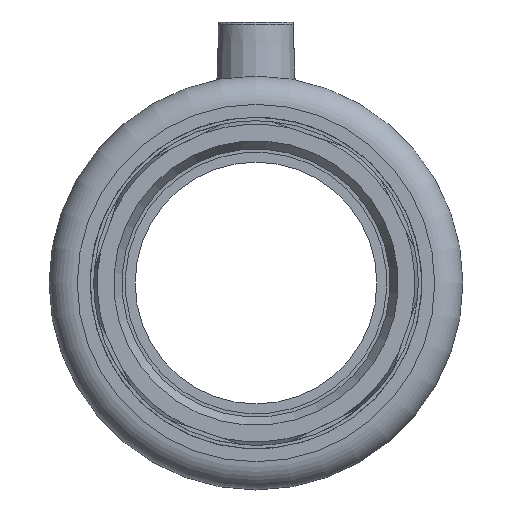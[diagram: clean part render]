
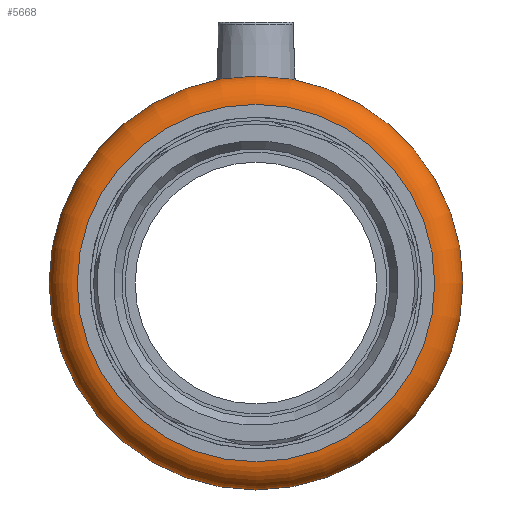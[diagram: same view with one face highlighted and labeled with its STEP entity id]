
A CAD part, left-side view. The second image highlights one B-rep face of the part: STEP entity #5668.
In plain terms, the highlighted toroidal (fillet/blend) face has major radius 38 mm and minor radius 6 mm.
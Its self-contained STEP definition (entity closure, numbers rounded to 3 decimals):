
#553=TOROIDAL_SURFACE('',#7220,38.,6.);
#706=CIRCLE('',#7219,38.);
#707=CIRCLE('',#7221,44.);
#1721=ORIENTED_EDGE('',*,*,#3010,.T.);
#1722=ORIENTED_EDGE('',*,*,#3009,.F.);
#3009=EDGE_CURVE('',#3735,#3735,#706,.T.);
#3010=EDGE_CURVE('',#3736,#3736,#707,.T.);
#3735=VERTEX_POINT('',#11432);
#3736=VERTEX_POINT('',#11435);
#4752=EDGE_LOOP('',(#1721));
#4753=EDGE_LOOP('',(#1722));
#5202=FACE_BOUND('',#4752,.T.);
#5203=FACE_BOUND('',#4753,.T.);
#5668=ADVANCED_FACE('',(#5202,#5203),#553,.T.);
#7219=AXIS2_PLACEMENT_3D('',#11431,#8070,#8071);
#7220=AXIS2_PLACEMENT_3D('',#11433,#8072,#8073);
#7221=AXIS2_PLACEMENT_3D('',#11434,#8074,#8075);
#8070=DIRECTION('',(-1.,0.,0.));
#8071=DIRECTION('',(0.,0.,1.));
#8072=DIRECTION('',(-1.,0.,0.));
#8073=DIRECTION('',(0.,0.,1.));
#8074=DIRECTION('',(-1.,0.,0.));
#8075=DIRECTION('',(0.,0.,1.));
#11431=CARTESIAN_POINT('',(0.,0.,0.));
#11432=CARTESIAN_POINT('',(0.,0.,38.));
#11433=CARTESIAN_POINT('',(6.,0.,0.));
#11434=CARTESIAN_POINT('',(6.,0.,0.));
#11435=CARTESIAN_POINT('',(6.,0.,44.));
